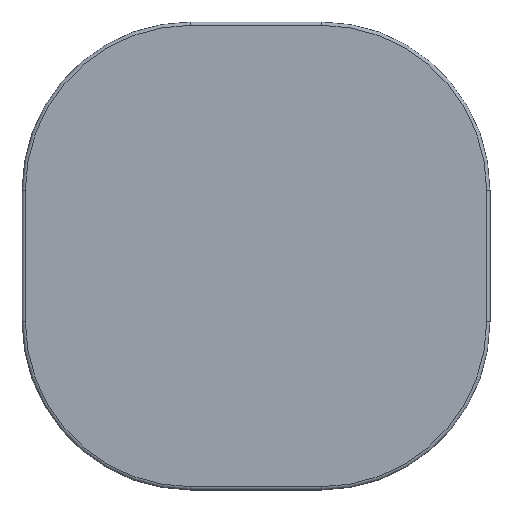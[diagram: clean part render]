
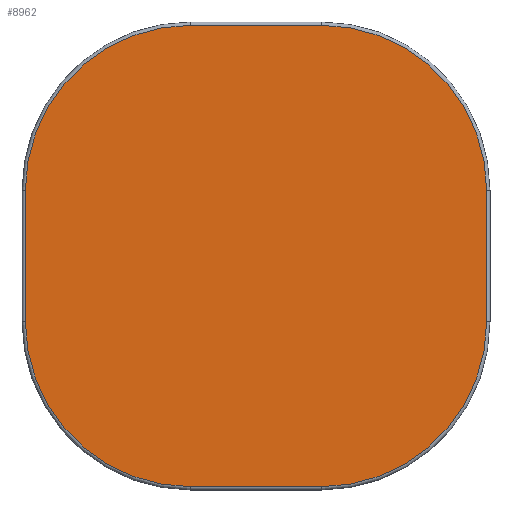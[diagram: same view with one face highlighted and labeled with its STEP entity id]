
A CAD part, front view. The second image highlights one B-rep face of the part: STEP entity #8962.
In plain terms, the highlighted planar face has unit normal (0, -1, 0).
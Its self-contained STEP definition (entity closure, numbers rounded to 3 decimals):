
#102 = CIRCLE ( 'NONE', #3213, 49. ) ;
#139 = VECTOR ( 'NONE', #7874, 1000. ) ;
#248 = CARTESIAN_POINT ( 'NONE',  ( -19.5, 0., 68.5 ) ) ;
#493 = DIRECTION ( 'NONE',  ( 0., 0., 1. ) ) ;
#518 = ORIENTED_EDGE ( 'NONE', *, *, #7819, .T. ) ;
#668 = DIRECTION ( 'NONE',  ( 0., -1., 0. ) ) ;
#783 = VERTEX_POINT ( 'NONE', #4763 ) ;
#969 = ORIENTED_EDGE ( 'NONE', *, *, #9507, .T. ) ;
#1022 = EDGE_CURVE ( 'NONE', #6054, #5671, #5428, .T. ) ;
#1078 = CARTESIAN_POINT ( 'NONE',  ( 19.5, 0., -68.5 ) ) ;
#1145 = DIRECTION ( 'NONE',  ( 0., 0., -1. ) ) ;
#1466 = CARTESIAN_POINT ( 'NONE',  ( 68.5, 0., 19.5 ) ) ;
#1502 = CIRCLE ( 'NONE', #6960, 49. ) ;
#1575 = DIRECTION ( 'NONE',  ( 0., 0., 1. ) ) ;
#1673 = EDGE_LOOP ( 'NONE', ( #969, #6832, #9262, #3995, #518, #7042, #8029, #1853 ) ) ;
#1776 = CARTESIAN_POINT ( 'NONE',  ( -19.5, 0., -68.5 ) ) ;
#1853 = ORIENTED_EDGE ( 'NONE', *, *, #11075, .T. ) ;
#1991 = AXIS2_PLACEMENT_3D ( 'NONE', #11186, #7005, #8675 ) ;
#2052 = CARTESIAN_POINT ( 'NONE',  ( -68.5, 0., -19.5 ) ) ;
#2055 = VERTEX_POINT ( 'NONE', #4332 ) ;
#2242 = EDGE_CURVE ( 'NONE', #5671, #2830, #2823, .T. ) ;
#2454 = CARTESIAN_POINT ( 'NONE',  ( 19.5, 0., 19.5 ) ) ;
#2521 = PLANE ( 'NONE',  #3613 ) ;
#2551 = CARTESIAN_POINT ( 'NONE',  ( 19.5, 0., 68.5 ) ) ;
#2823 = CIRCLE ( 'NONE', #6473, 49. ) ;
#2830 = VERTEX_POINT ( 'NONE', #1776 ) ;
#3123 = LINE ( 'NONE', #1466, #7868 ) ;
#3213 = AXIS2_PLACEMENT_3D ( 'NONE', #10344, #4601, #6206 ) ;
#3264 = EDGE_CURVE ( 'NONE', #2830, #783, #8741, .T. ) ;
#3613 = AXIS2_PLACEMENT_3D ( 'NONE', #8528, #8420, #5887 ) ;
#3746 = EDGE_CURVE ( 'NONE', #2055, #10747, #1502, .T. ) ;
#3995 = ORIENTED_EDGE ( 'NONE', *, *, #3264, .T. ) ;
#4153 = CARTESIAN_POINT ( 'NONE',  ( -19.5, 0., -19.5 ) ) ;
#4168 = DIRECTION ( 'NONE',  ( 0., -1., 0. ) ) ;
#4253 = VECTOR ( 'NONE', #10493, 1000. ) ;
#4304 = CARTESIAN_POINT ( 'NONE',  ( 68.5, 0., -19.5 ) ) ;
#4332 = CARTESIAN_POINT ( 'NONE',  ( 68.5, 0., 19.5 ) ) ;
#4414 = EDGE_CURVE ( 'NONE', #9720, #2055, #3123, .T. ) ;
#4601 = DIRECTION ( 'NONE',  ( 0., -1., 0. ) ) ;
#4763 = CARTESIAN_POINT ( 'NONE',  ( 19.5, 0., -68.5 ) ) ;
#5428 = LINE ( 'NONE', #9715, #10442 ) ;
#5671 = VERTEX_POINT ( 'NONE', #2052 ) ;
#5887 = DIRECTION ( 'NONE',  ( 0., 0., 1. ) ) ;
#6030 = LINE ( 'NONE', #2551, #4253 ) ;
#6054 = VERTEX_POINT ( 'NONE', #8319 ) ;
#6206 = DIRECTION ( 'NONE',  ( 0., 0., 1. ) ) ;
#6473 = AXIS2_PLACEMENT_3D ( 'NONE', #4153, #668, #1575 ) ;
#6832 = ORIENTED_EDGE ( 'NONE', *, *, #1022, .T. ) ;
#6960 = AXIS2_PLACEMENT_3D ( 'NONE', #2454, #4168, #8571 ) ;
#7005 = DIRECTION ( 'NONE',  ( 0., -1., 0. ) ) ;
#7042 = ORIENTED_EDGE ( 'NONE', *, *, #4414, .T. ) ;
#7819 = EDGE_CURVE ( 'NONE', #783, #9720, #102, .T. ) ;
#7868 = VECTOR ( 'NONE', #493, 1000. ) ;
#7874 = DIRECTION ( 'NONE',  ( 1., 0., 0. ) ) ;
#8029 = ORIENTED_EDGE ( 'NONE', *, *, #3746, .T. ) ;
#8261 = VERTEX_POINT ( 'NONE', #248 ) ;
#8319 = CARTESIAN_POINT ( 'NONE',  ( -68.5, 0., 19.5 ) ) ;
#8420 = DIRECTION ( 'NONE',  ( 0., 1., 0. ) ) ;
#8528 = CARTESIAN_POINT ( 'NONE',  ( 19.5, 0., 19.5 ) ) ;
#8571 = DIRECTION ( 'NONE',  ( 0., 0., 1. ) ) ;
#8675 = DIRECTION ( 'NONE',  ( 0., 0., 1. ) ) ;
#8741 = LINE ( 'NONE', #1078, #139 ) ;
#8962 = ADVANCED_FACE ( 'NONE', ( #10346 ), #2521, .F. ) ;
#9137 = CARTESIAN_POINT ( 'NONE',  ( 19.5, 0., 68.5 ) ) ;
#9262 = ORIENTED_EDGE ( 'NONE', *, *, #2242, .T. ) ;
#9507 = EDGE_CURVE ( 'NONE', #8261, #6054, #10387, .T. ) ;
#9715 = CARTESIAN_POINT ( 'NONE',  ( -68.5, 0., 19.5 ) ) ;
#9720 = VERTEX_POINT ( 'NONE', #4304 ) ;
#10344 = CARTESIAN_POINT ( 'NONE',  ( 19.5, 0., -19.5 ) ) ;
#10346 = FACE_OUTER_BOUND ( 'NONE', #1673, .T. ) ;
#10387 = CIRCLE ( 'NONE', #1991, 49. ) ;
#10442 = VECTOR ( 'NONE', #1145, 1000. ) ;
#10493 = DIRECTION ( 'NONE',  ( -1., 0., 0. ) ) ;
#10747 = VERTEX_POINT ( 'NONE', #9137 ) ;
#11075 = EDGE_CURVE ( 'NONE', #10747, #8261, #6030, .T. ) ;
#11186 = CARTESIAN_POINT ( 'NONE',  ( -19.5, 0., 19.5 ) ) ;
